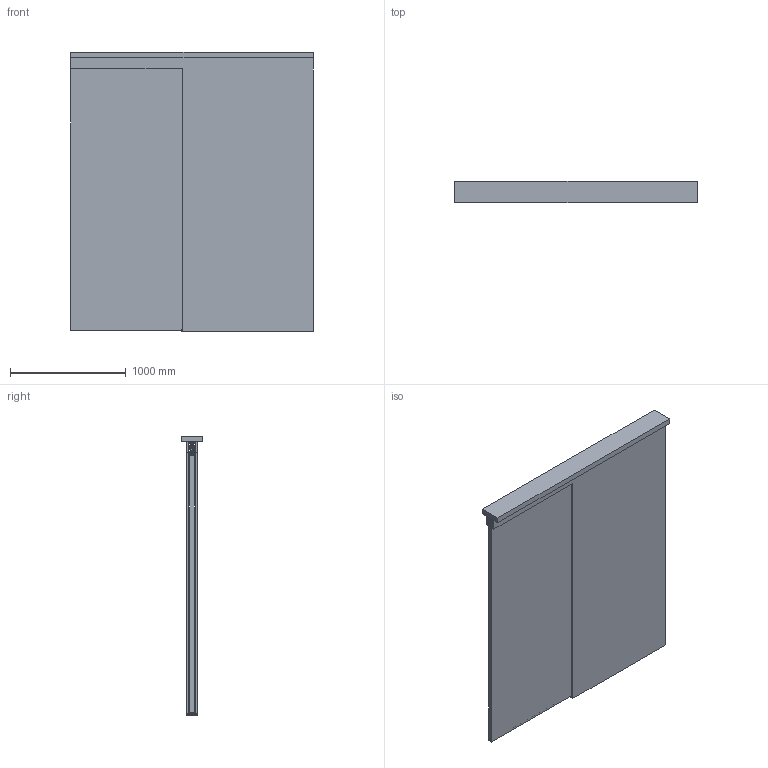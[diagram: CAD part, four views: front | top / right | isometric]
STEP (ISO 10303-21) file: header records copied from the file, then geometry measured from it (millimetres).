
FILE_DESCRIPTION(('STEP AP242'),'1');
FILE_NAME('OPO_65.084.13.stp','2026-02-23T17:29:29',(' '),(' '),'Spatial InterOp 3D',' ',' ');
FILE_SCHEMA(('AP242_MANAGED_MODEL_BASED_3D_ENGINEERING_MIM_LF {1 0 10303 442 1 1 4}'));
Length unit declared in the file: millimetre
Products named in the file (14): Zeichnung1; OPO_65.082.61; OPO_65.084.13_Aufhaengung_minimal_Holz_E_Space; OPO_65.084.13_Magnetantrieb_Teil1; OPO_65.084.13_Magnetantrieb_Teil2; OPO_65.084.13_Magnetantrieb_Teil3; OPO_65.084.13_Magnetantrieb_Teil4; OPO_65.084.13_Magnetantrieb_Teil5; OPO_65.084.13_Magnetantrieb_Teil6; OPO_65.084.13_Magnetantrieb_Teil7; OPO_65.084.13_Magnetantrieb_Teil8; OPO_65.084.32; OPO_65.084.13_Bodenfuehrung_Pocket_Holz; AutoCreatedBlock_163
Assembly tree (15 placements, depth 2):
  Zeichnung1
    OPO_65.082.61
    OPO_65.084.13_Aufhaengung_minimal_Holz_E_Space  x2
    OPO_65.084.13_Magnetantrieb_Teil1
    OPO_65.084.13_Magnetantrieb_Teil2
    OPO_65.084.13_Magnetantrieb_Teil3
    OPO_65.084.13_Magnetantrieb_Teil4
    OPO_65.084.13_Magnetantrieb_Teil5  x2
    OPO_65.084.13_Magnetantrieb_Teil6
    OPO_65.084.13_Magnetantrieb_Teil7
    OPO_65.084.13_Magnetantrieb_Teil8
    OPO_65.084.32
    OPO_65.084.13_Bodenfuehrung_Pocket_Holz
    AutoCreatedBlock_163
Bounding box: 2100.5 x 188 x 2418 mm (x, y, z)
Volume: 218913760.7 mm3; surface area: 19148605.7 mm2
Topology: 76 solids, 76 shells, 1825 faces, 4783 edges, 3172 vertices
Faces by surface type: plane 1192, cylinder 631, cone 2
Entity records: 65170 total; most frequent: CARTESIAN_POINT 9434, DIRECTION 8807, ORIENTED_EDGE 8698, EDGE_CURVE 4349, LINE 3173, VECTOR 3173, VERTEX_POINT 2884, AXIS2_PLACEMENT_3D 2817
